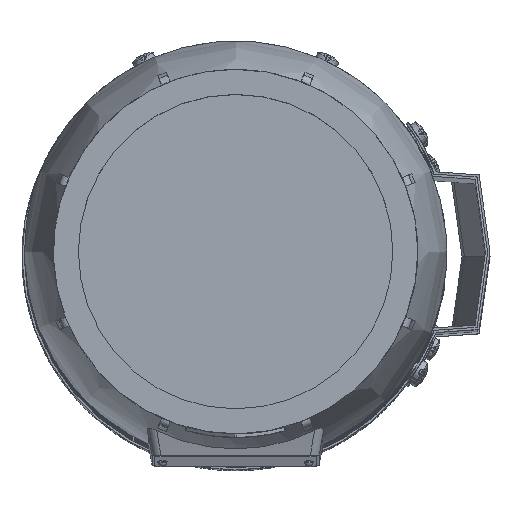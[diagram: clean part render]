
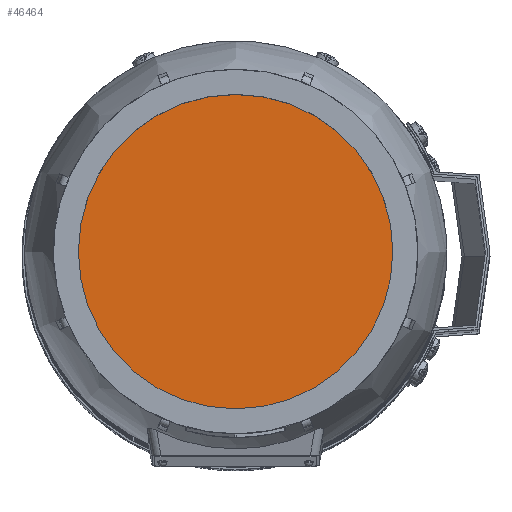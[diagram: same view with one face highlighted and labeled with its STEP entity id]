
A CAD part, top view. The second image highlights one B-rep face of the part: STEP entity #46464.
In plain terms, the highlighted planar face has unit normal (0, 0, 1) as drawn and (0, 1, 0) by its records, which use the part's own axes.
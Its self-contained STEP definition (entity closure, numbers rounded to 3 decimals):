
#9797=ORIENTED_EDGE('',*,*,#23853,.F.);
#23853=EDGE_CURVE('',#30881,#30881,#35611,.T.);
#30881=VERTEX_POINT('',#67075);
#35611=CIRCLE('',#49003,67.736);
#37734=EDGE_LOOP('',(#9797));
#41088=FACE_BOUND('',#37734,.T.);
#44460=PLANE('',#49002);
#46464=ADVANCED_FACE('',(#41088),#44460,.F.);
#49002=AXIS2_PLACEMENT_3D('',#67073,#53594,#53595);
#49003=AXIS2_PLACEMENT_3D('',#67074,#53596,#53597);
#53594=DIRECTION('',(0.,-1.,0.));
#53595=DIRECTION('',(0.,0.,-1.));
#53596=DIRECTION('',(0.,-1.,0.));
#53597=DIRECTION('',(0.,0.,-1.));
#67073=CARTESIAN_POINT('',(0.,154.,0.));
#67074=CARTESIAN_POINT('',(0.,154.,0.));
#67075=CARTESIAN_POINT('',(0.,154.,-67.736));
